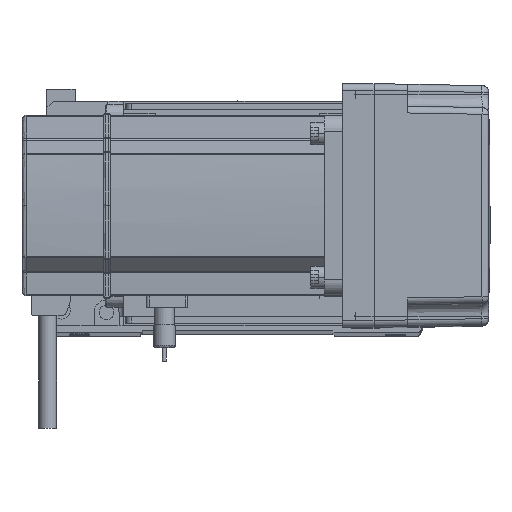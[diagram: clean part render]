
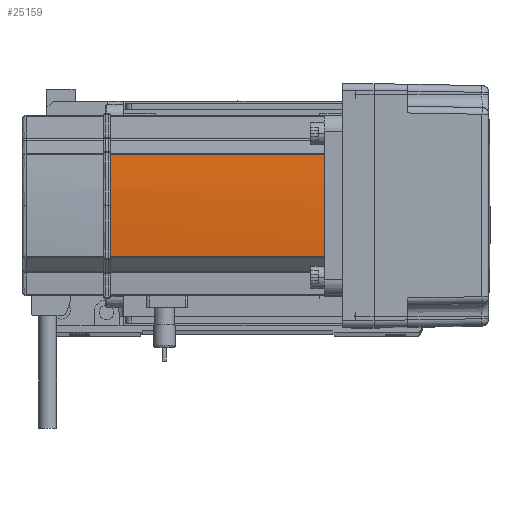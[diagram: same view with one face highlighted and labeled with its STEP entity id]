
A CAD part, top view. The second image highlights one B-rep face of the part: STEP entity #25159.
In plain terms, the highlighted cylindrical face has radius 270 mm (diameter 540 mm), a partial arc.
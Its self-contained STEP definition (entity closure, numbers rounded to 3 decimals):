
#1066 = FACE_OUTER_BOUND ( 'NONE', #12259, .T. ) ;
#1218 = EDGE_CURVE ( 'NONE', #46367, #54506, #32685, .T. ) ;
#1324 = DIRECTION ( 'NONE',  ( 0., 0., -1. ) ) ;
#1889 = CARTESIAN_POINT ( 'NONE',  ( -39.042, 22.724, 0. ) ) ;
#2850 = DIRECTION ( 'NONE',  ( 0., 0., 1. ) ) ;
#3309 = ORIENTED_EDGE ( 'NONE', *, *, #1218, .T. ) ;
#4813 = CARTESIAN_POINT ( 'NONE',  ( -39.042, -22.724, 39. ) ) ;
#8441 = VERTEX_POINT ( 'NONE', #53627 ) ;
#8573 = CARTESIAN_POINT ( 'NONE',  ( 230., 0., 134. ) ) ;
#10246 = DIRECTION ( 'NONE',  ( 0., 0., 1. ) ) ;
#11328 = DIRECTION ( 'NONE',  ( 0., 0., -1. ) ) ;
#11575 = CYLINDRICAL_SURFACE ( 'NONE', #53460, 270. ) ;
#11726 = EDGE_CURVE ( 'NONE', #56594, #54506, #12224, .T. ) ;
#11988 = VERTEX_POINT ( 'NONE', #25292 ) ;
#12224 = CIRCLE ( 'NONE', #58098, 270. ) ;
#12259 = EDGE_LOOP ( 'NONE', ( #34481, #26164, #3309, #37781, #51623 ) ) ;
#12422 = CARTESIAN_POINT ( 'NONE',  ( 230., 0., 0. ) ) ;
#12630 = DIRECTION ( 'NONE',  ( 1., 0., 0. ) ) ;
#17527 = DIRECTION ( 'NONE',  ( 0., 0., -1. ) ) ;
#20367 = DIRECTION ( 'NONE',  ( 1., 0., 0. ) ) ;
#25159 = ADVANCED_FACE ( 'NONE', ( #1066 ), #11575, .T. ) ;
#25292 = CARTESIAN_POINT ( 'NONE',  ( -39.042, -22.724, 134. ) ) ;
#25899 = AXIS2_PLACEMENT_3D ( 'NONE', #28952, #11328, #47008 ) ;
#26164 = ORIENTED_EDGE ( 'NONE', *, *, #53634, .T. ) ;
#28952 = CARTESIAN_POINT ( 'NONE',  ( 230., 0., 134. ) ) ;
#29192 = CARTESIAN_POINT ( 'NONE',  ( 230., 0., 39. ) ) ;
#32685 = LINE ( 'NONE', #1889, #44610 ) ;
#33014 = LINE ( 'NONE', #51014, #48432 ) ;
#34481 = ORIENTED_EDGE ( 'NONE', *, *, #55926, .T. ) ;
#37781 = ORIENTED_EDGE ( 'NONE', *, *, #11726, .F. ) ;
#38072 = CIRCLE ( 'NONE', #58087, 270. ) ;
#39220 = CIRCLE ( 'NONE', #25899, 270. ) ;
#41201 = CARTESIAN_POINT ( 'NONE',  ( -39.042, 22.724, 134. ) ) ;
#44089 = CARTESIAN_POINT ( 'NONE',  ( -39.042, 22.724, 39. ) ) ;
#44610 = VECTOR ( 'NONE', #1324, 1000. ) ;
#46367 = VERTEX_POINT ( 'NONE', #41201 ) ;
#47008 = DIRECTION ( 'NONE',  ( 1., 0., 0. ) ) ;
#47244 = DIRECTION ( 'NONE',  ( 0., 0., -1. ) ) ;
#47735 = DIRECTION ( 'NONE',  ( 1., 0., 0. ) ) ;
#48432 = VECTOR ( 'NONE', #10246, 1000. ) ;
#51014 = CARTESIAN_POINT ( 'NONE',  ( -39.042, -22.724, 0. ) ) ;
#51623 = ORIENTED_EDGE ( 'NONE', *, *, #54828, .T. ) ;
#53460 = AXIS2_PLACEMENT_3D ( 'NONE', #12422, #2850, #47735 ) ;
#53627 = CARTESIAN_POINT ( 'NONE',  ( -40., 0., 134. ) ) ;
#53634 = EDGE_CURVE ( 'NONE', #8441, #46367, #38072, .T. ) ;
#54506 = VERTEX_POINT ( 'NONE', #44089 ) ;
#54828 = EDGE_CURVE ( 'NONE', #56594, #11988, #33014, .T. ) ;
#55926 = EDGE_CURVE ( 'NONE', #11988, #8441, #39220, .T. ) ;
#56594 = VERTEX_POINT ( 'NONE', #4813 ) ;
#58087 = AXIS2_PLACEMENT_3D ( 'NONE', #8573, #17527, #12630 ) ;
#58098 = AXIS2_PLACEMENT_3D ( 'NONE', #29192, #47244, #20367 ) ;
